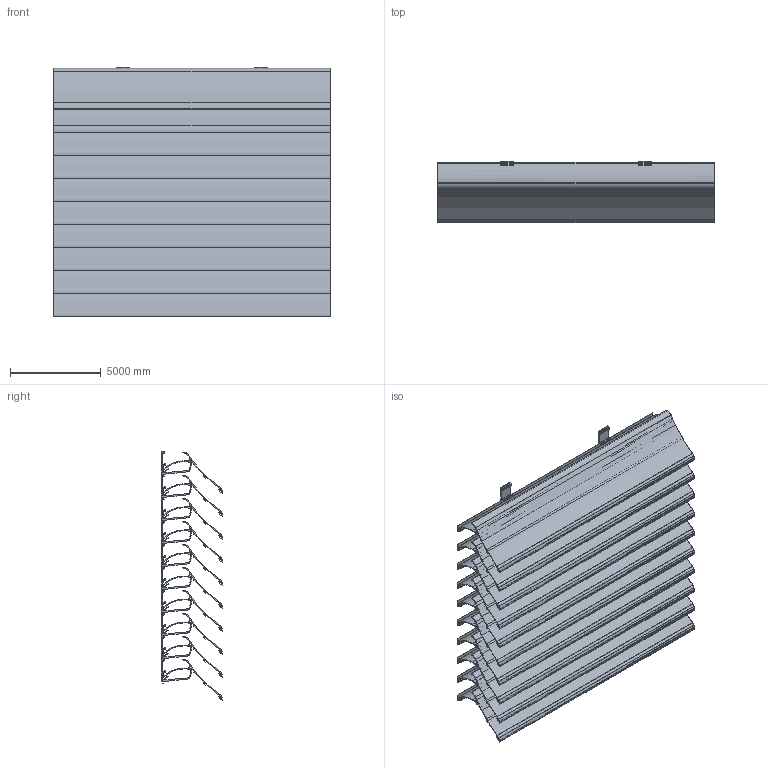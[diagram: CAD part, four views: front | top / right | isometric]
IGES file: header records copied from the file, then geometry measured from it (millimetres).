
Global section: file name: 3D_L_050W; native system: AutoCAD 2023 - English; preprocessor: Autodesk Translation Framework DWG producer (atf_dwg_producer); organization: unknown; date: 20260202.112215; units: inch
Bounding box: 15240 x 3375.66 x 13769.61 mm (x, y, z)
Volume: 46104415451.3 mm3; surface area: 2004335558.2 mm2
Topology: 30 solids, 30 shells, 2130 faces, 6210 edges, 4140 vertices
Faces by surface type: bspline 2130
